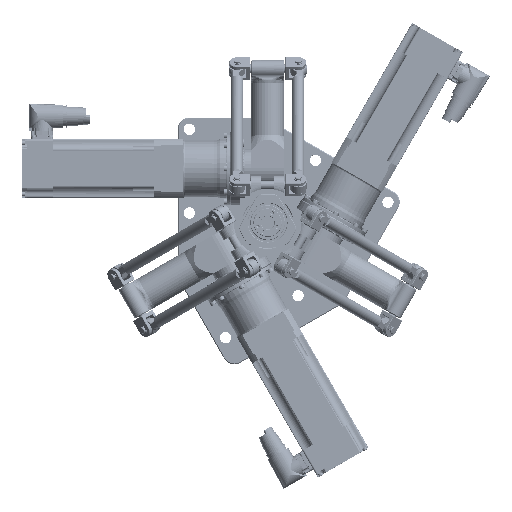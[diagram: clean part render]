
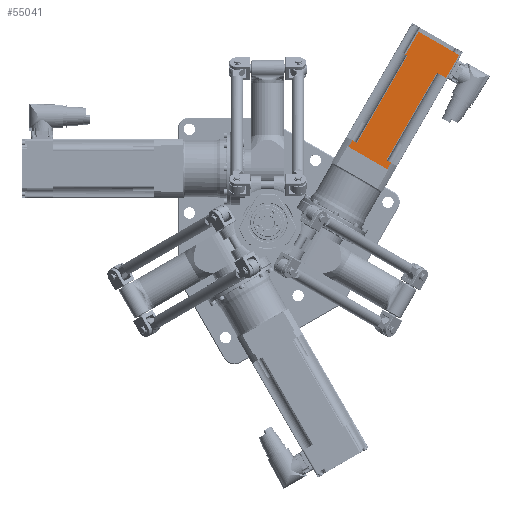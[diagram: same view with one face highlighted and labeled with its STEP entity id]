
A CAD part, top view. The second image highlights one B-rep face of the part: STEP entity #55041.
In plain terms, the highlighted planar face has unit normal (0, 0, 1) as drawn and (0, -1, 0) by its records, which use the part's own axes.
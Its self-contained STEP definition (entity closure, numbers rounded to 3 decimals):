
#1408 = LINE ( 'NONE', #84906, #43100 ) ;
#2675 = DIRECTION ( 'NONE',  ( 0., 0., -1. ) ) ;
#3063 = CARTESIAN_POINT ( 'NONE',  ( -9., -35., 5. ) ) ;
#3676 = ORIENTED_EDGE ( 'NONE', *, *, #16706, .T. ) ;
#6693 = LINE ( 'NONE', #74883, #97268 ) ;
#8661 = CARTESIAN_POINT ( 'NONE',  ( -129.5, -35., -26.665 ) ) ;
#10972 = LINE ( 'NONE', #3063, #66592 ) ;
#12050 = CARTESIAN_POINT ( 'NONE',  ( 0., -35., -26.665 ) ) ;
#12098 = DIRECTION ( 'NONE',  ( -1., 0., 0. ) ) ;
#12295 = CARTESIAN_POINT ( 'NONE',  ( -9., -35., -26.665 ) ) ;
#12739 = VECTOR ( 'NONE', #98959, 1000. ) ;
#13796 = EDGE_CURVE ( 'NONE', #53888, #28455, #107205, .T. ) ;
#16555 = CARTESIAN_POINT ( 'NONE',  ( -129.5, -35., 20.5 ) ) ;
#16706 = EDGE_CURVE ( 'NONE', #30719, #92159, #98056, .T. ) ;
#16861 = ORIENTED_EDGE ( 'NONE', *, *, #96818, .T. ) ;
#17019 = DIRECTION ( 'NONE',  ( 0., 0., 1. ) ) ;
#18107 = EDGE_CURVE ( 'NONE', #35632, #65111, #110075, .T. ) ;
#18634 = ORIENTED_EDGE ( 'NONE', *, *, #91361, .T. ) ;
#20961 = CARTESIAN_POINT ( 'NONE',  ( -9., -35., 20.5 ) ) ;
#21220 = CARTESIAN_POINT ( 'NONE',  ( -9., -35., 26.665 ) ) ;
#21467 = DIRECTION ( 'NONE',  ( 0., -1., 0. ) ) ;
#22110 = VERTEX_POINT ( 'NONE', #79435 ) ;
#22209 = AXIS2_PLACEMENT_3D ( 'NONE', #38923, #21467, #22218 ) ;
#22218 = DIRECTION ( 'NONE',  ( 0., 0., -1. ) ) ;
#24411 = LINE ( 'NONE', #45336, #56349 ) ;
#25155 = VERTEX_POINT ( 'NONE', #20961 ) ;
#26791 = EDGE_CURVE ( 'NONE', #31962, #35632, #6693, .T. ) ;
#28455 = VERTEX_POINT ( 'NONE', #89518 ) ;
#30719 = VERTEX_POINT ( 'NONE', #96436 ) ;
#31413 = ORIENTED_EDGE ( 'NONE', *, *, #73314, .T. ) ;
#31962 = VERTEX_POINT ( 'NONE', #56845 ) ;
#32664 = LINE ( 'NONE', #54668, #67476 ) ;
#33470 = LINE ( 'NONE', #110588, #86411 ) ;
#33472 = DIRECTION ( 'NONE',  ( 1., 0., 0. ) ) ;
#35632 = VERTEX_POINT ( 'NONE', #12295 ) ;
#36026 = DIRECTION ( 'NONE',  ( -1., 0., 0. ) ) ;
#37998 = ORIENTED_EDGE ( 'NONE', *, *, #106169, .T. ) ;
#38382 = DIRECTION ( 'NONE',  ( 0., 0., 1. ) ) ;
#38923 = CARTESIAN_POINT ( 'NONE',  ( -129.5, -35., 5. ) ) ;
#39142 = CARTESIAN_POINT ( 'NONE',  ( -129.5, -35., 5. ) ) ;
#43100 = VECTOR ( 'NONE', #33472, 1000. ) ;
#44350 = VECTOR ( 'NONE', #38382, 1000. ) ;
#45336 = CARTESIAN_POINT ( 'NONE',  ( -129.5, -35., 20.5 ) ) ;
#47418 = PLANE ( 'NONE',  #22209 ) ;
#48219 = FACE_OUTER_BOUND ( 'NONE', #85213, .T. ) ;
#49347 = EDGE_CURVE ( 'NONE', #89909, #28455, #33470, .T. ) ;
#49364 = LINE ( 'NONE', #39142, #73164 ) ;
#52803 = VECTOR ( 'NONE', #106752, 1000. ) ;
#52973 = DIRECTION ( 'NONE',  ( -1., 0., 0. ) ) ;
#53681 = LINE ( 'NONE', #113985, #78734 ) ;
#53888 = VERTEX_POINT ( 'NONE', #68573 ) ;
#54668 = CARTESIAN_POINT ( 'NONE',  ( -129.5, -35., 5. ) ) ;
#55041 = ADVANCED_FACE ( 'NONE', ( #48219 ), #47418, .T. ) ;
#56349 = VECTOR ( 'NONE', #36026, 1000. ) ;
#56845 = CARTESIAN_POINT ( 'NONE',  ( -9., -35., -20.5 ) ) ;
#57768 = VERTEX_POINT ( 'NONE', #16555 ) ;
#58449 = ORIENTED_EDGE ( 'NONE', *, *, #26791, .T. ) ;
#65111 = VERTEX_POINT ( 'NONE', #12050 ) ;
#65578 = CARTESIAN_POINT ( 'NONE',  ( -161., -35., 1.28 ) ) ;
#66436 = EDGE_CURVE ( 'NONE', #57768, #89909, #49364, .T. ) ;
#66592 = VECTOR ( 'NONE', #2675, 1000. ) ;
#66881 = ORIENTED_EDGE ( 'NONE', *, *, #13796, .F. ) ;
#67476 = VECTOR ( 'NONE', #73055, 1000. ) ;
#68573 = CARTESIAN_POINT ( 'NONE',  ( -161., -35., -23. ) ) ;
#70987 = CARTESIAN_POINT ( 'NONE',  ( -129.5, -35., 26.665 ) ) ;
#71080 = EDGE_CURVE ( 'NONE', #25155, #57768, #24411, .T. ) ;
#73055 = DIRECTION ( 'NONE',  ( 0., 0., 1. ) ) ;
#73164 = VECTOR ( 'NONE', #83868, 1000. ) ;
#73314 = EDGE_CURVE ( 'NONE', #92159, #25155, #10972, .T. ) ;
#74883 = CARTESIAN_POINT ( 'NONE',  ( -9., -35., 5. ) ) ;
#76479 = ORIENTED_EDGE ( 'NONE', *, *, #18107, .T. ) ;
#77888 = ORIENTED_EDGE ( 'NONE', *, *, #98411, .T. ) ;
#78734 = VECTOR ( 'NONE', #17019, 1000. ) ;
#79435 = CARTESIAN_POINT ( 'NONE',  ( -129.5, -35., -23. ) ) ;
#79494 = ORIENTED_EDGE ( 'NONE', *, *, #71080, .T. ) ;
#80982 = CARTESIAN_POINT ( 'NONE',  ( -129.5, -35., -20.5 ) ) ;
#81539 = ORIENTED_EDGE ( 'NONE', *, *, #66436, .T. ) ;
#82010 = ORIENTED_EDGE ( 'NONE', *, *, #49347, .T. ) ;
#83868 = DIRECTION ( 'NONE',  ( 0., 0., 1. ) ) ;
#84906 = CARTESIAN_POINT ( 'NONE',  ( -129.5, -35., -23. ) ) ;
#85213 = EDGE_LOOP ( 'NONE', ( #81539, #82010, #66881, #16861, #77888, #18634, #58449, #76479, #37998, #3676, #31413, #79494 ) ) ;
#86411 = VECTOR ( 'NONE', #12098, 1000. ) ;
#88665 = VERTEX_POINT ( 'NONE', #115198 ) ;
#89518 = CARTESIAN_POINT ( 'NONE',  ( -161., -35., 33. ) ) ;
#89909 = VERTEX_POINT ( 'NONE', #96035 ) ;
#91361 = EDGE_CURVE ( 'NONE', #88665, #31962, #96253, .T. ) ;
#92159 = VERTEX_POINT ( 'NONE', #21220 ) ;
#93909 = VECTOR ( 'NONE', #52973, 1000. ) ;
#96035 = CARTESIAN_POINT ( 'NONE',  ( -129.5, -35., 33. ) ) ;
#96253 = LINE ( 'NONE', #80982, #12739 ) ;
#96436 = CARTESIAN_POINT ( 'NONE',  ( 0., -35., 26.665 ) ) ;
#96818 = EDGE_CURVE ( 'NONE', #53888, #22110, #1408, .T. ) ;
#97268 = VECTOR ( 'NONE', #111138, 1000. ) ;
#98056 = LINE ( 'NONE', #70987, #93909 ) ;
#98411 = EDGE_CURVE ( 'NONE', #22110, #88665, #32664, .T. ) ;
#98959 = DIRECTION ( 'NONE',  ( 1., 0., 0. ) ) ;
#106169 = EDGE_CURVE ( 'NONE', #65111, #30719, #53681, .T. ) ;
#106752 = DIRECTION ( 'NONE',  ( 1., 0., 0. ) ) ;
#107205 = LINE ( 'NONE', #65578, #44350 ) ;
#110075 = LINE ( 'NONE', #8661, #52803 ) ;
#110588 = CARTESIAN_POINT ( 'NONE',  ( -129.5, -35., 33. ) ) ;
#111138 = DIRECTION ( 'NONE',  ( 0., 0., -1. ) ) ;
#113985 = CARTESIAN_POINT ( 'NONE',  ( 0., -35., 0. ) ) ;
#115198 = CARTESIAN_POINT ( 'NONE',  ( -129.5, -35., -20.5 ) ) ;
